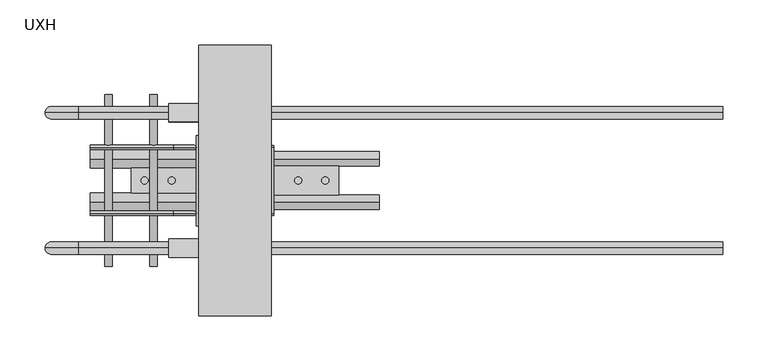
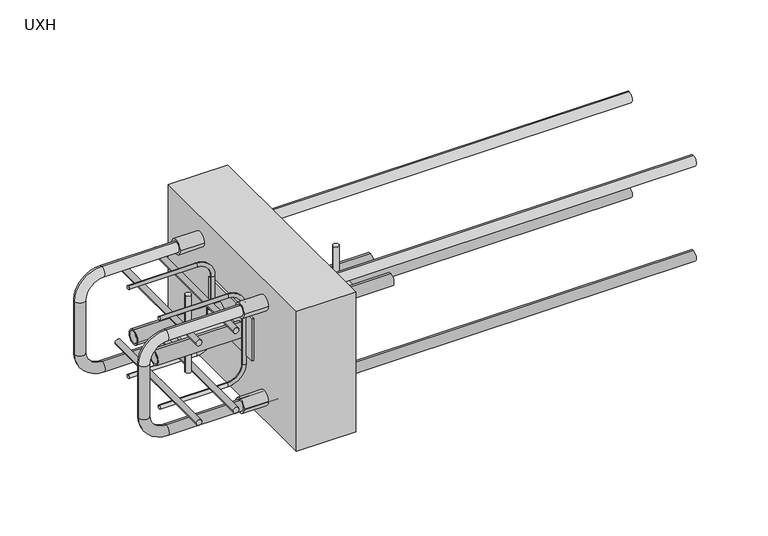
"""IFC4 building model written with IfcOpenShell, lengths in millimetres: fastener geometry, ACINOXplus_Typenreihe_UX : UXH."""

from ifc_helpers import new_model, si_unit, point, frame, frame_2d, origin, place, context, project, spatial, polyline, circle_curve, ellipse_curve, trimmed, segment, composite_curve, outline, extrude, source, transform, mapped, element, save
from ifc_brep_helpers import plane_surface, cylinder_surface, revolved_surface, advanced_brep


def uxh_3e080a8e(model_context):
    return source(origin(), model_context, "Body", "SolidModel", [
        extrude(outline(composite_curve([segment(trimmed(circle_curve(frame_2d((-100.0, 0.0)), 4.0), [point((-104.0, 0.0))], [point((-96.0, 0.0))], False, "CARTESIAN"), True, "CONTINUOUS"), segment(trimmed(circle_curve(frame_2d((-100.0, 0.0)), 4.0), [point((-96.0, 0.0))], [point((-104.0, 0.0))], False, "CARTESIAN"), True, "CONTINUOUS")], self_intersect=False)), frame((0.0, 0.0, -155.0), z_axis=(0.0, 0.0, 1.0), x_axis=(1.0, 0.0, 0.0)), (0.0, 0.0, 1.0), 110.0),
        extrude(outline(composite_curve([segment(trimmed(circle_curve(frame_2d((-70.0, 0.0)), 4.0), [point((-74.0, 0.0))], [point((-66.0, 0.0))], False, "CARTESIAN"), True, "CONTINUOUS"), segment(trimmed(circle_curve(frame_2d((-70.0, 0.0)), 4.0), [point((-66.0, 0.0))], [point((-74.0, 0.0))], False, "CARTESIAN"), True, "CONTINUOUS")], self_intersect=False)), frame((0.0, 0.0, -125.0), z_axis=(0.0, 0.0, 1.0), x_axis=(1.0, 0.0, 0.0)), (0.0, 0.0, 1.0), 50.0),
        extrude(outline(composite_curve([segment(trimmed(circle_curve(frame_2d((70.0, 0.0)), 4.0), [point((66.0, 0.0))], [point((74.0, 0.0))], False, "CARTESIAN"), True, "CONTINUOUS"), segment(trimmed(circle_curve(frame_2d((70.0, 0.0)), 4.0), [point((74.0, 0.0))], [point((66.0, 0.0))], False, "CARTESIAN"), True, "CONTINUOUS")], self_intersect=False)), frame((0.0, 0.0, -125.0), z_axis=(0.0, 0.0, 1.0), x_axis=(1.0, 0.0, 0.0)), (0.0, 0.0, 1.0), 50.0),
        extrude(outline(composite_curve([segment(trimmed(circle_curve(frame_2d((100.0, 0.0)), 4.0), [point((96.0, 0.0))], [point((104.0, 0.0))], False, "CARTESIAN"), True, "CONTINUOUS"), segment(trimmed(circle_curve(frame_2d((100.0, 0.0)), 4.0), [point((104.0, 0.0))], [point((96.0, 0.0))], False, "CARTESIAN"), True, "CONTINUOUS")], self_intersect=False)), frame((0.0, 0.0, -155.0), z_axis=(0.0, 0.0, 1.0), x_axis=(1.0, 0.0, 0.0)), (0.0, 0.0, 1.0), 110.0),
        extrude(outline(composite_curve([segment(trimmed(circle_curve(frame_2d((24.0, -100.0)), 8.0), [point((24.0, -92.0))], [point((24.0, -108.0))], False, "CARTESIAN"), True, "CONTINUOUS"), segment(trimmed(circle_curve(frame_2d((24.0, -100.0)), 8.0), [point((24.0, -108.0))], [point((24.0, -92.0))], False, "CARTESIAN"), True, "CONTINUOUS")], self_intersect=False)), frame((-160.0, 0.0, 0.0), z_axis=(1.0, 0.0, 0.0), x_axis=(0.0, 1.0, 0.0)), (0.0, 0.0, 1.0), 320.0),
        extrude(outline(composite_curve([segment(trimmed(circle_curve(frame_2d((-24.0, -100.0)), 8.0), [point((-24.0, -92.0))], [point((-24.0, -108.0))], False, "CARTESIAN"), True, "CONTINUOUS"), segment(trimmed(circle_curve(frame_2d((-24.0, -100.0)), 8.0), [point((-24.0, -108.0))], [point((-24.0, -92.0))], False, "CARTESIAN"), True, "CONTINUOUS")], self_intersect=False)), frame((-160.0, 0.0, 0.0), z_axis=(1.0, 0.0, 0.0), x_axis=(0.0, 1.0, 0.0)), (0.0, 0.0, 1.0), 320.0),
        advanced_brep(
        [(-43.0, -50.1737701, -130.0), (-43.0, -50.1737701, -70.0), (-43.0, 50.0, -70.0), (-43.0, 50.0, -130.0), (-43.0, -24.0, -110.0), (-43.0, -24.0, -90.0), (-43.0, 24.0, -110.0), (-43.0, 24.0, -90.0), (-43.0, -24.0, -108.0), (-43.0, -24.0, -92.0), (-43.0, 24.0, -108.0), (-43.0, 24.0, -92.0), (-40.0, -50.1737701, -130.0), (-40.0, 50.0, -130.0), (-40.0, 50.0, -70.0), (-40.0, -50.1737701, -70.0), (-160.0, -24.0, -90.0), (-160.0, -24.0, -110.0), (-160.0, -24.0, -92.0), (-160.0, -24.0, -108.0), (-160.0, 24.0, -90.0), (-160.0, 24.0, -110.0), (-160.0, 24.0, -92.0), (-160.0, 24.0, -108.0)],
        [
            (0, 1),
            (1, 2),
            (2, 3),
            (3, 0),
            (4, 5, circle_curve(frame((-43.0, -24.0, -100.0), z_axis=(1.0, 0.0, 0.0), x_axis=(0.0, 0.0, -1.0)), 10.0)),
            (5, 4, circle_curve(frame((-43.0, -24.0, -100.0), z_axis=(1.0, 0.0, 0.0), x_axis=(0.0, 0.0, -1.0)), 10.0)),
            (6, 7, circle_curve(frame((-43.0, 24.0, -100.0), z_axis=(1.0, 0.0, 0.0), x_axis=(0.0, 0.0, -1.0)), 10.0)),
            (7, 6, circle_curve(frame((-43.0, 24.0, -100.0), z_axis=(1.0, 0.0, 0.0), x_axis=(0.0, 0.0, -1.0)), 10.0)),
            (8, 9, circle_curve(frame((-43.0, -24.0, -100.0), z_axis=(-1.0, 0.0, 0.0), x_axis=(0.0, 0.0, -1.0)), 8.0)),
            (9, 8, circle_curve(frame((-43.0, -24.0, -100.0), z_axis=(-1.0, 0.0, 0.0), x_axis=(0.0, 0.0, -1.0)), 8.0)),
            (10, 11, circle_curve(frame((-43.0, 24.0, -100.0), z_axis=(-1.0, 0.0, 0.0), x_axis=(0.0, 0.0, -1.0)), 8.0)),
            (11, 10, circle_curve(frame((-43.0, 24.0, -100.0), z_axis=(-1.0, 0.0, 0.0), x_axis=(0.0, 0.0, -1.0)), 8.0)),
            (12, 13),
            (13, 14),
            (14, 15),
            (15, 12),
            (0, 12),
            (15, 1),
            (14, 2),
            (13, 3),
            (16, 17, circle_curve(frame((-160.0, -24.0, -100.0), z_axis=(-1.0, 0.0, 0.0), x_axis=(0.0, 0.0, -1.0)), 10.0)),
            (17, 16, circle_curve(frame((-160.0, -24.0, -100.0), z_axis=(-1.0, 0.0, 0.0), x_axis=(0.0, 0.0, -1.0)), 10.0)),
            (18, 19, circle_curve(frame((-160.0, -24.0, -100.0), z_axis=(1.0, 0.0, 0.0), x_axis=(0.0, 0.0, -1.0)), 8.0)),
            (19, 18, circle_curve(frame((-160.0, -24.0, -100.0), z_axis=(1.0, 0.0, 0.0), x_axis=(0.0, 0.0, -1.0)), 8.0)),
            (20, 21, circle_curve(frame((-160.0, 24.0, -100.0), z_axis=(-1.0, 0.0, 0.0), x_axis=(0.0, 0.0, -1.0)), 10.0)),
            (21, 20, circle_curve(frame((-160.0, 24.0, -100.0), z_axis=(-1.0, 0.0, 0.0), x_axis=(0.0, 0.0, -1.0)), 10.0)),
            (22, 23, circle_curve(frame((-160.0, 24.0, -100.0), z_axis=(1.0, 0.0, 0.0), x_axis=(0.0, 0.0, -1.0)), 8.0)),
            (23, 22, circle_curve(frame((-160.0, 24.0, -100.0), z_axis=(1.0, 0.0, 0.0), x_axis=(0.0, 0.0, -1.0)), 8.0)),
            (18, 9),
            (8, 19),
            (22, 11),
            (10, 23),
            (16, 5),
            (4, 17),
            (20, 7),
            (6, 21),
        ],
        [
            plane_surface(frame((-43.0, -50.1737701, -70.0), z_axis=(-1.0, 0.0, 0.0), x_axis=(0.0, 0.0, 1.0))),
            plane_surface(frame((-40.0, -50.1737701, -70.0), z_axis=(1.0, 0.0, 0.0), x_axis=(0.0, 0.0, -1.0))),
            plane_surface(frame((-43.0, -50.1737701, -130.0), z_axis=(0.0, -1.0, 0.0), x_axis=(1.0, 0.0, 0.0))),
            plane_surface(frame((-43.0, -50.1737701, -70.0), z_axis=(0.0, 0.0, 1.0), x_axis=(1.0, 0.0, 0.0))),
            plane_surface(frame((-43.0, 50.0, -70.0), z_axis=(0.0, 1.0, 0.0), x_axis=(1.0, 0.0, 0.0))),
            plane_surface(frame((-43.0, 50.0, -130.0), z_axis=(0.0, 0.0, -1.0), x_axis=(1.0, 0.0, 0.0))),
            plane_surface(frame((-160.0, -24.0, -108.0), z_axis=(-1.0, 0.0, 0.0), x_axis=(0.0, 1.0, 0.0))),
            revolved_surface(polyline([(-43.0, -24.0, -108.0), (-160.0, -24.0, -108.0)]), (-43.0, -24.0, -100.0), (1.0, 0.0, 0.0)),
            revolved_surface(polyline([(-43.0, 24.0, -108.0), (-160.0, 24.0, -108.0)]), (0.0, 24.0, -100.0), (1.0, 0.0, 0.0)),
            cylinder_surface(frame((0.0, -24.0, -100.0), z_axis=(-1.0, 0.0, 0.0), x_axis=(0.0, 0.0, -1.0)), 10.0),
            cylinder_surface(frame((0.0, 24.0, -100.0), z_axis=(-1.0, 0.0, 0.0), x_axis=(0.0, 0.0, -1.0)), 10.0),
        ],
        [
            (0, [[1, 2, 3, 4], [5, 6], [7, 8]]),
            (0, [[9, 10]]),
            (0, [[11, 12]]),
            (1, [[13, 14, 15, 16]]),
            (2, [[-1, 17, -16, 18]]),
            (3, [[-2, -18, -15, 19]]),
            (4, [[-3, -19, -14, 20]]),
            (5, [[-4, -20, -13, -17]]),
            (6, [[21, 22], [23, 24]]),
            (6, [[25, 26], [27, 28]]),
            (7, [[-23, 29, -9, 30]]),
            (7, [[-24, -30, -10, -29]]),
            (8, [[-27, 31, -11, 32]]),
            (8, [[-28, -32, -12, -31]]),
            (9, [[-21, 33, -5, 34]]),
            (9, [[-22, -34, -6, -33]]),
            (10, [[-25, 35, -7, 36]]),
            (10, [[-26, -36, -8, -35]]),
        ],
    ),
        extrude(outline(composite_curve([segment(polyline([(-37.3055432, -85.0), (37.3055432, -85.0)]), True, "CONTINUOUS"), segment(trimmed(circle_curve(frame_2d((-25.94001, -100.0)), 65.0), [point((37.3055432, -85.0))], [point((37.3055432, -115.0))], False, "CARTESIAN"), True, "CONTINUOUS"), segment(polyline([(37.3055432, -115.0), (-37.3055432, -115.0)]), True, "CONTINUOUS"), segment(trimmed(circle_curve(frame_2d((25.94001, -100.0)), 65.0), [point((-37.3055432, -115.0))], [point((-37.3055432, -85.0))], False, "CARTESIAN"), True, "CONTINUOUS")], self_intersect=False)), frame((40.0, 0.0, 0.0), z_axis=(1.0, 0.0, 0.0), x_axis=(0.0, 1.0, 0.0)), (0.0, 0.0, 1.0), 3.0254417),
        extrude(outline(polyline([(-115.0, -24.0), (-115.0, 24.0), (115.0, 24.0), (115.0, -24.0), (-115.0, -24.0)])), frame((0.0, 0.0, -102.0), z_axis=(0.0, 0.0, 1.0), x_axis=(1.0, 0.0, 0.0)), (0.0, 0.0, 1.0), 4.0),
        extrude(outline(composite_curve([segment(trimmed(circle_curve(frame_2d((-157.0, -90.0)), 4.0), [point((-157.0, -86.0))], [point((-157.0, -94.0))], False, "CARTESIAN"), True, "CONTINUOUS"), segment(trimmed(circle_curve(frame_2d((-157.0, -90.0)), 4.0), [point((-157.0, -94.0))], [point((-157.0, -86.0))], False, "CARTESIAN"), True, "CONTINUOUS")], self_intersect=False)), frame((0.0, -95.0, 0.0), z_axis=(0.0, 1.0, 0.0), x_axis=(0.0, 0.0, 1.0)), (0.0, 0.0, 1.0), 190.0),
        extrude(outline(composite_curve([segment(trimmed(circle_curve(frame_2d((-43.0, -90.0)), 4.0), [point((-43.0, -86.0))], [point((-43.0, -94.0))], False, "CARTESIAN"), True, "CONTINUOUS"), segment(trimmed(circle_curve(frame_2d((-43.0, -90.0)), 4.0), [point((-43.0, -94.0))], [point((-43.0, -86.0))], False, "CARTESIAN"), True, "CONTINUOUS")], self_intersect=False)), frame((0.0, -95.0, 0.0), z_axis=(0.0, 1.0, 0.0), x_axis=(0.0, 0.0, 1.0)), (0.0, 0.0, 1.0), 190.0),
        extrude(outline(composite_curve([segment(trimmed(circle_curve(frame_2d((-43.0, -140.0)), 4.0), [point((-43.0, -136.0))], [point((-43.0, -144.0))], False, "CARTESIAN"), True, "CONTINUOUS"), segment(trimmed(circle_curve(frame_2d((-43.0, -140.0)), 4.0), [point((-43.0, -144.0))], [point((-43.0, -136.0))], False, "CARTESIAN"), True, "CONTINUOUS")], self_intersect=False)), frame((0.0, -95.0, 0.0), z_axis=(0.0, 1.0, 0.0), x_axis=(0.0, 0.0, 1.0)), (0.0, 0.0, 1.0), 190.0),
        extrude(outline(composite_curve([segment(trimmed(circle_curve(frame_2d((-157.0, -140.0)), 4.0), [point((-157.0, -136.0))], [point((-157.0, -144.0))], False, "CARTESIAN"), True, "CONTINUOUS"), segment(trimmed(circle_curve(frame_2d((-157.0, -140.0)), 4.0), [point((-157.0, -144.0))], [point((-157.0, -136.0))], False, "CARTESIAN"), True, "CONTINUOUS")], self_intersect=False)), frame((0.0, -95.0, 0.0), z_axis=(0.0, 1.0, 0.0), x_axis=(0.0, 0.0, 1.0)), (0.0, 0.0, 1.0), 190.0),
        extrude(outline(polyline([(40.0, 150.0), (40.0, -150.0), (-40.0, -150.0), (-40.0, 150.0), (40.0, 150.0)])), frame((0.0, 0.0, -200.0), z_axis=(0.0, 0.0, 1.0), x_axis=(1.0, 0.0, 0.0)), (0.0, 0.0, 1.0), 200.0),
        advanced_brep(
        [(540.0, 75.0, -25.0), (540.0, 75.0, -39.0), (-173.0, 75.0, -25.0), (-173.0, 75.0, -39.0), (-196.0, 75.0, -62.0), (-210.0, 75.0, -62.0), (-210.0, 75.0, -138.0), (-196.0, 75.0, -138.0), (-173.0, 75.0, -161.0), (-173.0, 75.0, -175.0), (540.0, 75.0, -175.0), (540.0, 75.0, -161.0)],
        [
            (0, 1, circle_curve(frame((540.0, 75.0, -32.0), z_axis=(1.0, 0.0, 0.0), x_axis=(0.0, 0.0, -1.0)), 7.0)),
            (1, 0, circle_curve(frame((540.0, 75.0, -32.0), z_axis=(1.0, 0.0, 0.0), x_axis=(0.0, 0.0, -1.0)), 7.0)),
            (0, 2),
            (2, 3, circle_curve(frame((-173.0, 75.0, -32.0), z_axis=(1.0, 0.0, 0.0), x_axis=(0.0, 0.0, -1.0)), 7.0)),
            (3, 1),
            (3, 2, circle_curve(frame((-173.0, 75.0, -32.0), z_axis=(1.0, 0.0, 0.0), x_axis=(0.0, 0.0, -1.0)), 7.0)),
            (4, 3, circle_curve(frame((-173.0, 75.0, -62.0), z_axis=(0.0, 1.0, 0.0), x_axis=(0.0, 0.0, 1.0)), 23.0)),
            (2, 5, circle_curve(frame((-173.0, 75.0, -62.0), z_axis=(0.0, -1.0, 0.0), x_axis=(0.0, 0.0, 1.0)), 37.0)),
            (5, 4, circle_curve(frame((-203.0, 75.0, -62.0), z_axis=(0.0, 0.0, 1.0), x_axis=(1.0, 0.0, 0.0)), 7.0)),
            (4, 5, circle_curve(frame((-203.0, 75.0, -62.0), z_axis=(0.0, 0.0, 1.0), x_axis=(1.0, 0.0, 0.0)), 7.0)),
            (5, 6),
            (6, 7, circle_curve(frame((-203.0, 75.0, -138.0), z_axis=(0.0, 0.0, 1.0), x_axis=(1.0, 0.0, 0.0)), 7.0)),
            (7, 4),
            (7, 6, circle_curve(frame((-203.0, 75.0, -138.0), z_axis=(0.0, 0.0, 1.0), x_axis=(1.0, 0.0, 0.0)), 7.0)),
            (8, 7, circle_curve(frame((-173.0, 75.0, -138.0), z_axis=(0.0, 1.0, 0.0), x_axis=(-1.0, 0.0, 0.0)), 23.0)),
            (6, 9, circle_curve(frame((-173.0, 75.0, -138.0), z_axis=(0.0, -1.0, 0.0), x_axis=(-1.0, 0.0, 0.0)), 37.0)),
            (9, 8, circle_curve(frame((-173.0, 75.0, -168.0), z_axis=(-1.0, 0.0, 0.0), x_axis=(0.0, 0.0, 1.0)), 7.0)),
            (8, 9, circle_curve(frame((-173.0, 75.0, -168.0), z_axis=(-1.0, 0.0, 0.0), x_axis=(0.0, 0.0, 1.0)), 7.0)),
            (10, 11, circle_curve(frame((540.0, 75.0, -168.0), z_axis=(1.0, 0.0, 0.0), x_axis=(0.0, 0.0, 1.0)), 7.0)),
            (11, 10, circle_curve(frame((540.0, 75.0, -168.0), z_axis=(1.0, 0.0, 0.0), x_axis=(0.0, 0.0, 1.0)), 7.0)),
            (9, 10),
            (11, 8),
        ],
        [
            plane_surface(frame((540.0, 75.0, -32.0), z_axis=(1.0, 0.0, 0.0), x_axis=(0.0, -1.0, 0.0))),
            cylinder_surface(frame((540.0, 75.0, -32.0), z_axis=(1.0, 0.0, 0.0), x_axis=(0.0, 0.0, -1.0)), 7.0),
            revolved_surface(trimmed(ellipse_curve(frame((-173.0, 75.0, -32.0), z_axis=(1.0, 0.0, 0.0), x_axis=(0.0, 0.0, -1.0)), 7.0, 7.0), [point((-173.0, 75.0, -25.0))], [point((-173.0, 75.0, -39.0))], True, "CARTESIAN"), (-173.0, 75.0, -62.0), (0.0, -1.0, 0.0)),
            revolved_surface(trimmed(ellipse_curve(frame((-173.0, 75.0, -32.0), z_axis=(1.0, 0.0, 0.0), x_axis=(0.0, 0.0, -1.0)), 7.0, 7.0), [point((-173.0, 75.0, -39.0))], [point((-173.0, 75.0, -25.0))], True, "CARTESIAN"), (-173.0, 75.0, -62.0), (0.0, -1.0, 0.0)),
            cylinder_surface(frame((-203.0, 75.0, -62.0), z_axis=(0.0, 0.0, 1.0), x_axis=(1.0, 0.0, 0.0)), 7.0),
            revolved_surface(trimmed(ellipse_curve(frame((-203.0, 75.0, -138.0), z_axis=(0.0, 0.0, 1.0), x_axis=(1.0, 0.0, 0.0)), 7.0, 7.0), [point((-210.0, 75.0, -138.0))], [point((-196.0, 75.0, -138.0))], True, "CARTESIAN"), (-173.0, 75.0, -138.0), (0.0, -1.0, 0.0)),
            revolved_surface(trimmed(ellipse_curve(frame((-203.0, 75.0, -138.0), z_axis=(0.0, 0.0, 1.0), x_axis=(1.0, 0.0, 0.0)), 7.0, 7.0), [point((-196.0, 75.0, -138.0))], [point((-210.0, 75.0, -138.0))], True, "CARTESIAN"), (-173.0, 75.0, -138.0), (0.0, -1.0, 0.0)),
            plane_surface(frame((540.0, 75.0, -168.0), z_axis=(1.0, 0.0, 0.0), x_axis=(0.0, -1.0, 0.0))),
            cylinder_surface(frame((-173.0, 75.0, -168.0), z_axis=(-1.0, 0.0, 0.0), x_axis=(0.0, 0.0, 1.0)), 7.0),
        ],
        [
            (0, [[1, 2]]),
            (1, [[-1, 3, 4, 5]]),
            (1, [[-2, -5, 6, -3]]),
            (2, [[7, -4, 8, 9]]),
            (3, [[-8, -6, -7, 10]]),
            (4, [[-9, 11, 12, 13]]),
            (4, [[-10, -13, 14, -11]]),
            (5, [[15, -12, 16, 17]]),
            (6, [[-16, -14, -15, 18]]),
            (7, [[19, 20]]),
            (8, [[-17, 21, -20, 22]]),
            (8, [[-18, -22, -19, -21]]),
        ],
    ),
        advanced_brep(
        [(540.0, -75.0, -25.0), (540.0, -75.0, -39.0), (-173.0, -75.0, -25.0), (-173.0, -75.0, -39.0), (-196.0, -75.0, -62.0), (-210.0, -75.0, -62.0), (-210.0, -75.0, -138.0), (-196.0, -75.0, -138.0), (-173.0, -75.0, -161.0), (-173.0, -75.0, -175.0), (540.0, -75.0, -175.0), (540.0, -75.0, -161.0)],
        [
            (0, 1, circle_curve(frame((540.0, -75.0, -32.0), z_axis=(1.0, 0.0, 0.0), x_axis=(0.0, 0.0, -1.0)), 7.0)),
            (1, 0, circle_curve(frame((540.0, -75.0, -32.0), z_axis=(1.0, 0.0, 0.0), x_axis=(0.0, 0.0, -1.0)), 7.0)),
            (0, 2),
            (2, 3, circle_curve(frame((-173.0, -75.0, -32.0), z_axis=(1.0, 0.0, 0.0), x_axis=(0.0, 0.0, -1.0)), 7.0)),
            (3, 1),
            (3, 2, circle_curve(frame((-173.0, -75.0, -32.0), z_axis=(1.0, 0.0, 0.0), x_axis=(0.0, 0.0, -1.0)), 7.0)),
            (4, 3, circle_curve(frame((-173.0, -75.0, -62.0), z_axis=(0.0, 1.0, 0.0), x_axis=(0.0, 0.0, 1.0)), 23.0)),
            (2, 5, circle_curve(frame((-173.0, -75.0, -62.0), z_axis=(0.0, -1.0, 0.0), x_axis=(0.0, 0.0, 1.0)), 37.0)),
            (5, 4, circle_curve(frame((-203.0, -75.0, -62.0), z_axis=(0.0, 0.0, 1.0), x_axis=(1.0, 0.0, 0.0)), 7.0)),
            (4, 5, circle_curve(frame((-203.0, -75.0, -62.0), z_axis=(0.0, 0.0, 1.0), x_axis=(1.0, 0.0, 0.0)), 7.0)),
            (5, 6),
            (6, 7, circle_curve(frame((-203.0, -75.0, -138.0), z_axis=(0.0, 0.0, 1.0), x_axis=(1.0, 0.0, 0.0)), 7.0)),
            (7, 4),
            (7, 6, circle_curve(frame((-203.0, -75.0, -138.0), z_axis=(0.0, 0.0, 1.0), x_axis=(1.0, 0.0, 0.0)), 7.0)),
            (8, 7, circle_curve(frame((-173.0, -75.0, -138.0), z_axis=(0.0, 1.0, 0.0), x_axis=(-1.0, 0.0, 0.0)), 23.0)),
            (6, 9, circle_curve(frame((-173.0, -75.0, -138.0), z_axis=(0.0, -1.0, 0.0), x_axis=(-1.0, 0.0, 0.0)), 37.0)),
            (9, 8, circle_curve(frame((-173.0, -75.0, -168.0), z_axis=(-1.0, 0.0, 0.0), x_axis=(0.0, 0.0, 1.0)), 7.0)),
            (8, 9, circle_curve(frame((-173.0, -75.0, -168.0), z_axis=(-1.0, 0.0, 0.0), x_axis=(0.0, 0.0, 1.0)), 7.0)),
            (10, 11, circle_curve(frame((540.0, -75.0, -168.0), z_axis=(1.0, 0.0, 0.0), x_axis=(0.0, 0.0, 1.0)), 7.0)),
            (11, 10, circle_curve(frame((540.0, -75.0, -168.0), z_axis=(1.0, 0.0, 0.0), x_axis=(0.0, 0.0, 1.0)), 7.0)),
            (9, 10),
            (11, 8),
        ],
        [
            plane_surface(frame((540.0, -75.0, -32.0), z_axis=(1.0, 0.0, 0.0), x_axis=(0.0, -1.0, 0.0))),
            cylinder_surface(frame((540.0, -75.0, -32.0), z_axis=(1.0, 0.0, 0.0), x_axis=(0.0, 0.0, -1.0)), 7.0),
            revolved_surface(trimmed(ellipse_curve(frame((-173.0, -75.0, -32.0), z_axis=(1.0, 0.0, 0.0), x_axis=(0.0, 0.0, -1.0)), 7.0, 7.0), [point((-173.0, -75.0, -25.0))], [point((-173.0, -75.0, -39.0))], True, "CARTESIAN"), (-173.0, -75.0, -62.0), (0.0, -1.0, 0.0)),
            revolved_surface(trimmed(ellipse_curve(frame((-173.0, -75.0, -32.0), z_axis=(1.0, 0.0, 0.0), x_axis=(0.0, 0.0, -1.0)), 7.0, 7.0), [point((-173.0, -75.0, -39.0))], [point((-173.0, -75.0, -25.0))], True, "CARTESIAN"), (-173.0, -75.0, -62.0), (0.0, -1.0, 0.0)),
            cylinder_surface(frame((-203.0, -75.0, -62.0), z_axis=(0.0, 0.0, 1.0), x_axis=(1.0, 0.0, 0.0)), 7.0),
            revolved_surface(trimmed(ellipse_curve(frame((-203.0, -75.0, -138.0), z_axis=(0.0, 0.0, 1.0), x_axis=(1.0, 0.0, 0.0)), 7.0, 7.0), [point((-210.0, -75.0, -138.0))], [point((-196.0, -75.0, -138.0))], True, "CARTESIAN"), (-173.0, -75.0, -138.0), (0.0, -1.0, 0.0)),
            revolved_surface(trimmed(ellipse_curve(frame((-203.0, -75.0, -138.0), z_axis=(0.0, 0.0, 1.0), x_axis=(1.0, 0.0, 0.0)), 7.0, 7.0), [point((-196.0, -75.0, -138.0))], [point((-210.0, -75.0, -138.0))], True, "CARTESIAN"), (-173.0, -75.0, -138.0), (0.0, -1.0, 0.0)),
            plane_surface(frame((540.0, -75.0, -168.0), z_axis=(1.0, 0.0, 0.0), x_axis=(0.0, -1.0, 0.0))),
            cylinder_surface(frame((-173.0, -75.0, -168.0), z_axis=(-1.0, 0.0, 0.0), x_axis=(0.0, 0.0, 1.0)), 7.0),
        ],
        [
            (0, [[1, 2]]),
            (1, [[-1, 3, 4, 5]]),
            (1, [[-2, -5, 6, -3]]),
            (2, [[7, -4, 8, 9]]),
            (3, [[-8, -6, -7, 10]]),
            (4, [[-9, 11, 12, 13]]),
            (4, [[-10, -13, 14, -11]]),
            (5, [[15, -12, 16, 17]]),
            (6, [[-16, -14, -15, 18]]),
            (7, [[19, 20]]),
            (8, [[-17, 21, -20, 22]]),
            (8, [[-18, -22, -19, -21]]),
        ],
    ),
        advanced_brep(
        [(-160.0, 36.5, -34.0), (-160.0, 36.5, -39.0), (-68.0, 36.5, -34.0), (-68.0, 36.5, -39.0), (-48.0, 36.5, -59.0), (-43.0, 36.5, -59.0), (-43.0, 36.5, -141.0), (-48.0, 36.5, -141.0), (-68.0, 36.5, -161.0), (-68.0, 36.5, -166.0), (-160.0, 36.5, -166.0), (-160.0, 36.5, -161.0)],
        [
            (0, 1, circle_curve(frame((-160.0, 36.5, -36.5), z_axis=(-1.0, 0.0, 0.0), x_axis=(0.0, 0.0, -1.0)), 2.5)),
            (1, 0, circle_curve(frame((-160.0, 36.5, -36.5), z_axis=(-1.0, 0.0, 0.0), x_axis=(0.0, 0.0, -1.0)), 2.5)),
            (0, 2),
            (2, 3, circle_curve(frame((-68.0, 36.5, -36.5), z_axis=(-1.0, 0.0, 0.0), x_axis=(0.0, 0.0, -1.0)), 2.5)),
            (3, 1),
            (3, 2, circle_curve(frame((-68.0, 36.5, -36.5), z_axis=(-1.0, 0.0, 0.0), x_axis=(0.0, 0.0, -1.0)), 2.5)),
            (4, 3, circle_curve(frame((-68.0, 36.5, -59.0), z_axis=(0.0, -1.0, 0.0), x_axis=(0.0, 0.0, 1.0)), 20.0)),
            (2, 5, circle_curve(frame((-68.0, 36.5, -59.0), z_axis=(0.0, 1.0, 0.0), x_axis=(0.0, 0.0, 1.0)), 25.0)),
            (5, 4, circle_curve(frame((-45.5, 36.5, -59.0), z_axis=(0.0, 0.0, 1.0), x_axis=(-1.0, 0.0, 0.0)), 2.5)),
            (4, 5, circle_curve(frame((-45.5, 36.5, -59.0), z_axis=(0.0, 0.0, 1.0), x_axis=(-1.0, 0.0, 0.0)), 2.5)),
            (5, 6),
            (6, 7, circle_curve(frame((-45.5, 36.5, -141.0), z_axis=(0.0, 0.0, 1.0), x_axis=(-1.0, 0.0, 0.0)), 2.5)),
            (7, 4),
            (7, 6, circle_curve(frame((-45.5, 36.5, -141.0), z_axis=(0.0, 0.0, 1.0), x_axis=(-1.0, 0.0, 0.0)), 2.5)),
            (8, 7, circle_curve(frame((-68.0, 36.5, -141.0), z_axis=(0.0, -1.0, 0.0), x_axis=(1.0, 0.0, 0.0)), 20.0)),
            (6, 9, circle_curve(frame((-68.0, 36.5, -141.0), z_axis=(0.0, 1.0, 0.0), x_axis=(1.0, 0.0, 0.0)), 25.0)),
            (9, 8, circle_curve(frame((-68.0, 36.5, -163.5), z_axis=(1.0, 0.0, 0.0), x_axis=(0.0, 0.0, 1.0)), 2.5)),
            (8, 9, circle_curve(frame((-68.0, 36.5, -163.5), z_axis=(1.0, 0.0, 0.0), x_axis=(0.0, 0.0, 1.0)), 2.5)),
            (10, 11, circle_curve(frame((-160.0, 36.5, -163.5), z_axis=(-1.0, 0.0, 0.0), x_axis=(0.0, 0.0, 1.0)), 2.5)),
            (11, 10, circle_curve(frame((-160.0, 36.5, -163.5), z_axis=(-1.0, 0.0, 0.0), x_axis=(0.0, 0.0, 1.0)), 2.5)),
            (9, 10),
            (11, 8),
        ],
        [
            plane_surface(frame((-160.0, 36.5, -39.0), z_axis=(-1.0, 0.0, 0.0), x_axis=(0.0, 1.0, 0.0))),
            cylinder_surface(frame((-160.0, 36.5, -36.5), z_axis=(-1.0, 0.0, 0.0), x_axis=(0.0, 0.0, -1.0)), 2.5),
            revolved_surface(trimmed(ellipse_curve(frame((-68.0, 36.5, -36.5), z_axis=(-1.0, 0.0, 0.0), x_axis=(0.0, 0.0, -1.0)), 2.5, 2.5), [point((-68.0, 36.5, -34.0))], [point((-68.0, 36.5, -39.0))], True, "CARTESIAN"), (-68.0, 36.5, -59.0), (0.0, 1.0, 0.0)),
            revolved_surface(trimmed(ellipse_curve(frame((-68.0, 36.5, -36.5), z_axis=(-1.0, 0.0, 0.0), x_axis=(0.0, 0.0, -1.0)), 2.5, 2.5), [point((-68.0, 36.5, -39.0))], [point((-68.0, 36.5, -34.0))], True, "CARTESIAN"), (-68.0, 36.5, -59.0), (0.0, 1.0, 0.0)),
            cylinder_surface(frame((-45.5, 36.5, -59.0), z_axis=(0.0, 0.0, 1.0), x_axis=(-1.0, 0.0, 0.0)), 2.5),
            revolved_surface(trimmed(ellipse_curve(frame((-45.5, 36.5, -141.0), z_axis=(0.0, 0.0, 1.0), x_axis=(-1.0, 0.0, 0.0)), 2.5, 2.5), [point((-43.0, 36.5, -141.0))], [point((-48.0, 36.5, -141.0))], True, "CARTESIAN"), (-68.0, 36.5, -141.0), (0.0, 1.0, 0.0)),
            revolved_surface(trimmed(ellipse_curve(frame((-45.5, 36.5, -141.0), z_axis=(0.0, 0.0, 1.0), x_axis=(-1.0, 0.0, 0.0)), 2.5, 2.5), [point((-48.0, 36.5, -141.0))], [point((-43.0, 36.5, -141.0))], True, "CARTESIAN"), (-68.0, 36.5, -141.0), (0.0, 1.0, 0.0)),
            plane_surface(frame((-160.0, 36.5, -161.0), z_axis=(-1.0, 0.0, 0.0), x_axis=(0.0, 1.0, 0.0))),
            cylinder_surface(frame((-68.0, 36.5, -163.5), z_axis=(1.0, 0.0, 0.0), x_axis=(0.0, 0.0, 1.0)), 2.5),
        ],
        [
            (0, [[1, 2]]),
            (1, [[-1, 3, 4, 5]]),
            (1, [[-2, -5, 6, -3]]),
            (2, [[7, -4, 8, 9]]),
            (3, [[-8, -6, -7, 10]]),
            (4, [[-9, 11, 12, 13]]),
            (4, [[-10, -13, 14, -11]]),
            (5, [[15, -12, 16, 17]]),
            (6, [[-16, -14, -15, 18]]),
            (7, [[19, 20]]),
            (8, [[-17, 21, -20, 22]]),
            (8, [[-18, -22, -19, -21]]),
        ],
    ),
        advanced_brep(
        [(-160.0, -36.5, -34.0), (-160.0, -36.5, -39.0), (-160.0, -36.5, -166.0), (-160.0, -36.5, -161.0), (-68.0, -36.5, -34.0), (-68.0, -36.5, -39.0), (-48.0, -36.5, -59.0), (-43.0, -36.5, -59.0), (-43.0, -36.5, -141.0), (-48.0, -36.5, -141.0), (-68.0, -36.5, -161.0), (-68.0, -36.5, -166.0)],
        [
            (0, 1, circle_curve(frame((-160.0, -36.5, -36.5), z_axis=(-1.0, 0.0, 0.0), x_axis=(0.0, 0.0, -1.0)), 2.5)),
            (1, 0, circle_curve(frame((-160.0, -36.5, -36.5), z_axis=(-1.0, 0.0, 0.0), x_axis=(0.0, 0.0, -1.0)), 2.5)),
            (2, 3, circle_curve(frame((-160.0, -36.5, -163.5), z_axis=(-1.0, 0.0, 0.0), x_axis=(0.0, 0.0, 1.0)), 2.5)),
            (3, 2, circle_curve(frame((-160.0, -36.5, -163.5), z_axis=(-1.0, 0.0, 0.0), x_axis=(0.0, 0.0, 1.0)), 2.5)),
            (0, 4),
            (4, 5, circle_curve(frame((-68.0, -36.5, -36.5), z_axis=(-1.0, 0.0, 0.0), x_axis=(0.0, 0.0, -1.0)), 2.5)),
            (5, 1),
            (5, 4, circle_curve(frame((-68.0, -36.5, -36.5), z_axis=(-1.0, 0.0, 0.0), x_axis=(0.0, 0.0, -1.0)), 2.5)),
            (6, 5, circle_curve(frame((-68.0, -36.5, -59.0), z_axis=(0.0, -1.0, 0.0), x_axis=(0.0, 0.0, 1.0)), 20.0)),
            (4, 7, circle_curve(frame((-68.0, -36.5, -59.0), z_axis=(0.0, 1.0, 0.0), x_axis=(0.0, 0.0, 1.0)), 25.0)),
            (7, 6, circle_curve(frame((-45.5, -36.5, -59.0), z_axis=(0.0, 0.0, 1.0), x_axis=(-1.0, 0.0, 0.0)), 2.5)),
            (6, 7, circle_curve(frame((-45.5, -36.5, -59.0), z_axis=(0.0, 0.0, 1.0), x_axis=(-1.0, 0.0, 0.0)), 2.5)),
            (7, 8),
            (8, 9, circle_curve(frame((-45.5, -36.5, -141.0), z_axis=(0.0, 0.0, 1.0), x_axis=(-1.0, 0.0, 0.0)), 2.5)),
            (9, 6),
            (9, 8, circle_curve(frame((-45.5, -36.5, -141.0), z_axis=(0.0, 0.0, 1.0), x_axis=(-1.0, 0.0, 0.0)), 2.5)),
            (10, 9, circle_curve(frame((-68.0, -36.5, -141.0), z_axis=(0.0, -1.0, 0.0), x_axis=(1.0, 0.0, 0.0)), 20.0)),
            (8, 11, circle_curve(frame((-68.0, -36.5, -141.0), z_axis=(0.0, 1.0, 0.0), x_axis=(1.0, 0.0, 0.0)), 25.0)),
            (11, 10, circle_curve(frame((-68.0, -36.5, -163.5), z_axis=(1.0, 0.0, 0.0), x_axis=(0.0, 0.0, 1.0)), 2.5)),
            (10, 11, circle_curve(frame((-68.0, -36.5, -163.5), z_axis=(1.0, 0.0, 0.0), x_axis=(0.0, 0.0, 1.0)), 2.5)),
            (11, 2),
            (3, 10),
        ],
        [
            plane_surface(frame((-160.0, -36.5, -39.0), z_axis=(-1.0, 0.0, 0.0), x_axis=(0.0, 1.0, 0.0))),
            plane_surface(frame((-160.0, -36.5, -161.0), z_axis=(-1.0, 0.0, 0.0), x_axis=(0.0, 1.0, 0.0))),
            cylinder_surface(frame((-160.0, -36.5, -36.5), z_axis=(-1.0, 0.0, 0.0), x_axis=(0.0, 0.0, -1.0)), 2.5),
            revolved_surface(trimmed(ellipse_curve(frame((-68.0, -36.5, -36.5), z_axis=(-1.0, 0.0, 0.0), x_axis=(0.0, 0.0, -1.0)), 2.5, 2.5), [point((-68.0, -36.5, -34.0))], [point((-68.0, -36.5, -39.0))], True, "CARTESIAN"), (-68.0, -36.5, -59.0), (0.0, 1.0, 0.0)),
            revolved_surface(trimmed(ellipse_curve(frame((-68.0, -36.5, -36.5), z_axis=(-1.0, 0.0, 0.0), x_axis=(0.0, 0.0, -1.0)), 2.5, 2.5), [point((-68.0, -36.5, -39.0))], [point((-68.0, -36.5, -34.0))], True, "CARTESIAN"), (-68.0, -36.5, -59.0), (0.0, 1.0, 0.0)),
            cylinder_surface(frame((-45.5, -36.5, -59.0), z_axis=(0.0, 0.0, 1.0), x_axis=(-1.0, 0.0, 0.0)), 2.5),
            revolved_surface(trimmed(ellipse_curve(frame((-45.5, -36.5, -141.0), z_axis=(0.0, 0.0, 1.0), x_axis=(-1.0, 0.0, 0.0)), 2.5, 2.5), [point((-43.0, -36.5, -141.0))], [point((-48.0, -36.5, -141.0))], True, "CARTESIAN"), (-68.0, -36.5, -141.0), (0.0, 1.0, 0.0)),
            revolved_surface(trimmed(ellipse_curve(frame((-45.5, -36.5, -141.0), z_axis=(0.0, 0.0, 1.0), x_axis=(-1.0, 0.0, 0.0)), 2.5, 2.5), [point((-48.0, -36.5, -141.0))], [point((-43.0, -36.5, -141.0))], True, "CARTESIAN"), (-68.0, -36.5, -141.0), (0.0, 1.0, 0.0)),
            cylinder_surface(frame((-68.0, -36.5, -163.5), z_axis=(1.0, 0.0, 0.0), x_axis=(0.0, 0.0, 1.0)), 2.5),
        ],
        [
            (0, [[1, 2]]),
            (1, [[3, 4]]),
            (2, [[-1, 5, 6, 7]]),
            (2, [[-2, -7, 8, -5]]),
            (3, [[9, -6, 10, 11]]),
            (4, [[-10, -8, -9, 12]]),
            (5, [[-11, 13, 14, 15]]),
            (5, [[-12, -15, 16, -13]]),
            (6, [[17, -14, 18, 19]]),
            (7, [[-18, -16, -17, 20]]),
            (8, [[-19, 21, -4, 22]]),
            (8, [[-20, -22, -3, -21]]),
        ],
    ),
        extrude(outline(composite_curve([segment(trimmed(circle_curve(frame_2d((75.0, -168.0)), 10.0), [point((65.0, -168.0))], [point((85.0, -168.0))], False, "CARTESIAN"), True, "CONTINUOUS"), segment(trimmed(circle_curve(frame_2d((75.0, -168.0)), 10.0), [point((85.0, -168.0))], [point((65.0, -168.0))], False, "CARTESIAN"), True, "CONTINUOUS")], self_intersect=False), holes=[composite_curve([segment(trimmed(circle_curve(frame_2d((75.0, -168.0)), 7.0), [point((68.0, -168.0))], [point((82.0, -168.0))], True, "CARTESIAN"), True, "CONTINUOUS"), segment(trimmed(circle_curve(frame_2d((75.0, -168.0)), 7.0), [point((82.0, -168.0))], [point((68.0, -168.0))], True, "CARTESIAN"), True, "CONTINUOUS")], self_intersect=False)]), frame((-73.0, 0.0, 0.0), z_axis=(1.0, 0.0, 0.0), x_axis=(0.0, 1.0, 0.0)), (0.0, 0.0, 1.0), 33.0),
        extrude(outline(composite_curve([segment(trimmed(circle_curve(frame_2d((-75.0, -168.0)), 10.0), [point((-85.0, -168.0))], [point((-65.0, -168.0))], False, "CARTESIAN"), True, "CONTINUOUS"), segment(trimmed(circle_curve(frame_2d((-75.0, -168.0)), 10.0), [point((-65.0, -168.0))], [point((-85.0, -168.0))], False, "CARTESIAN"), True, "CONTINUOUS")], self_intersect=False), holes=[composite_curve([segment(trimmed(circle_curve(frame_2d((-75.0, -168.0)), 7.0), [point((-82.0, -168.0))], [point((-68.0, -168.0))], True, "CARTESIAN"), True, "CONTINUOUS"), segment(trimmed(circle_curve(frame_2d((-75.0, -168.0)), 7.0), [point((-68.0, -168.0))], [point((-82.0, -168.0))], True, "CARTESIAN"), True, "CONTINUOUS")], self_intersect=False)]), frame((-73.0, 0.0, 0.0), z_axis=(1.0, 0.0, 0.0), x_axis=(0.0, 1.0, 0.0)), (0.0, 0.0, 1.0), 33.0),
        extrude(outline(composite_curve([segment(trimmed(circle_curve(frame_2d((-75.0, -32.0)), 10.0), [point((-85.0, -32.0))], [point((-65.0, -32.0))], False, "CARTESIAN"), True, "CONTINUOUS"), segment(trimmed(circle_curve(frame_2d((-75.0, -32.0)), 10.0), [point((-65.0, -32.0))], [point((-85.0, -32.0))], False, "CARTESIAN"), True, "CONTINUOUS")], self_intersect=False), holes=[composite_curve([segment(trimmed(circle_curve(frame_2d((-75.0, -32.0)), 7.0), [point((-82.0, -32.0))], [point((-68.0, -32.0))], True, "CARTESIAN"), True, "CONTINUOUS"), segment(trimmed(circle_curve(frame_2d((-75.0, -32.0)), 7.0), [point((-68.0, -32.0))], [point((-82.0, -32.0))], True, "CARTESIAN"), True, "CONTINUOUS")], self_intersect=False)]), frame((-73.0, 0.0, 0.0), z_axis=(1.0, 0.0, 0.0), x_axis=(0.0, 1.0, 0.0)), (0.0, 0.0, 1.0), 33.0),
        extrude(outline(composite_curve([segment(trimmed(circle_curve(frame_2d((75.0, -32.0)), 10.0), [point((65.0, -32.0))], [point((85.0, -32.0))], False, "CARTESIAN"), True, "CONTINUOUS"), segment(trimmed(circle_curve(frame_2d((75.0, -32.0)), 10.0), [point((85.0, -32.0))], [point((65.0, -32.0))], False, "CARTESIAN"), True, "CONTINUOUS")], self_intersect=False), holes=[composite_curve([segment(trimmed(circle_curve(frame_2d((75.0, -32.0)), 7.0), [point((68.0, -32.0))], [point((82.0, -32.0))], True, "CARTESIAN"), True, "CONTINUOUS"), segment(trimmed(circle_curve(frame_2d((75.0, -32.0)), 7.0), [point((82.0, -32.0))], [point((68.0, -32.0))], True, "CARTESIAN"), True, "CONTINUOUS")], self_intersect=False)]), frame((-73.0, 0.0, 0.0), z_axis=(1.0, 0.0, 0.0), x_axis=(0.0, 1.0, 0.0)), (0.0, 0.0, 1.0), 33.0),
    ])


if __name__ == "__main__":
    model = new_model("IFC4")
    model_context = context("Model", 3, world=origin())
    ifc_project = project(units=[si_unit("LENGTHUNIT", "METRE", prefix="MILLI")], contexts=[model_context])
    site = spatial("IfcSite", under=ifc_project)
    building = spatial("IfcBuilding", under=site)
    placement = place(None, origin())
    uxh_shape = uxh_3e080a8e(model_context)
    element("IfcFastener", 1, ObjectType="ACINOXplus_Typenreihe_UX : UXH", at=placement, inside=building, context=model_context, shape_type="MappedRepresentation", body=[
        mapped(uxh_shape, transform((0.0, 0.0, 0.0), x_axis=(1.0, 0.0, 0.0), y_axis=(0.0, 1.0, 0.0), z_axis=(0.0, 0.0, 1.0))),
    ])
    save(model, "model.ifc")
